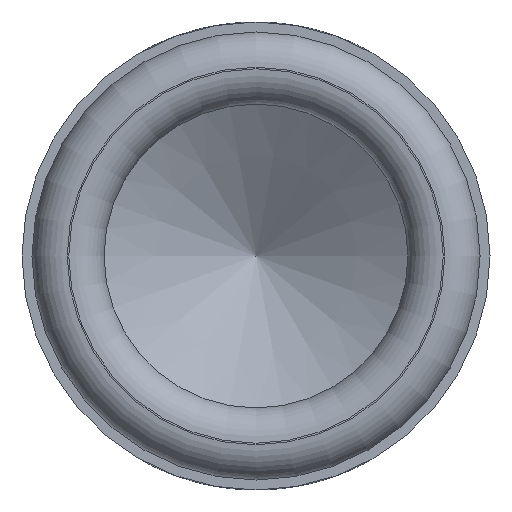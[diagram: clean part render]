
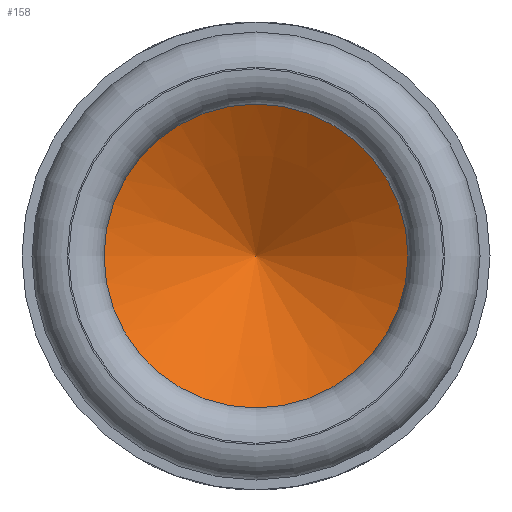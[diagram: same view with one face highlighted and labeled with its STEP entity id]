
A CAD part, left-side view. The second image highlights one B-rep face of the part: STEP entity #158.
In plain terms, the highlighted conical face has half-angle 59 degrees and reference radius 0.388 mm.
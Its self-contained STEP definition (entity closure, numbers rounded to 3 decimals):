
#15=CONICAL_SURFACE($,#181,0.388,59.);
#48=FACE_OUTER_BOUND($,#65,.T.);
#65=EDGE_LOOP($,(#133));
#86=CIRCLE($,#176,0.775);
#98=VERTEX_POINT($,#260);
#112=EDGE_CURVE($,#98,#98,#86,.T.);
#133=ORIENTED_EDGE($,*,*,#112,.T.);
#158=ADVANCED_FACE($,(#48),#15,.F.);
#176=AXIS2_PLACEMENT_3D($,#261,#210,#211);
#181=AXIS2_PLACEMENT_3D($,#268,#220,#221);
#210=DIRECTION('center_axis',(-1.,0.,0.));
#211=DIRECTION('ref_axis',(0.,-1.,0.));
#220=DIRECTION('center_axis',(-1.,0.,0.));
#221=DIRECTION('ref_axis',(0.,-1.,0.));
#260=CARTESIAN_POINT('',(5.258,-0.775,0.));
#261=CARTESIAN_POINT('Origin',(5.258,0.,0.));
#268=CARTESIAN_POINT('Origin',(5.491,0.,0.));
